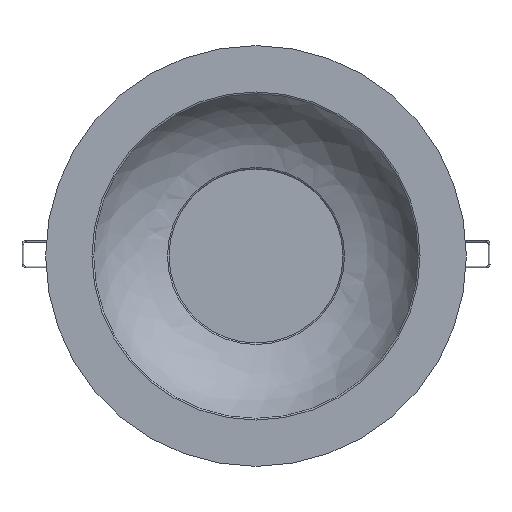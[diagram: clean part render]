
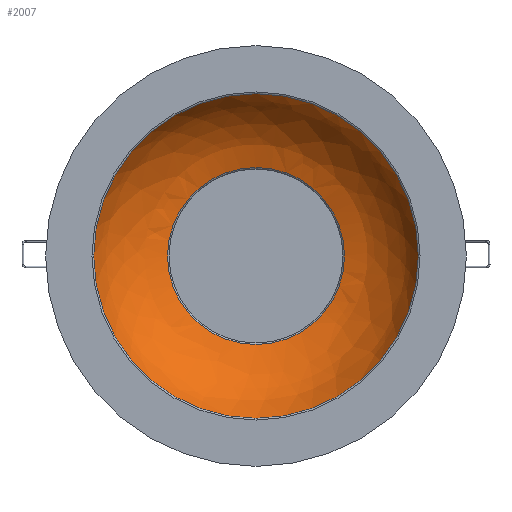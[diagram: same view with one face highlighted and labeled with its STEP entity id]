
A CAD part, front view. The second image highlights one B-rep face of the part: STEP entity #2007.
In plain terms, the highlighted free-form (B-spline) face has degree [2, 2] with [3, 9] control points.
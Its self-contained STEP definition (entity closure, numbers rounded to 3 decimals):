
#225=CIRCLE('',#2180,48.36);
#227=CIRCLE('',#2182,60.);
#228=CIRCLE('',#2183,88.739);
#242=(
BOUNDED_SURFACE()
B_SPLINE_SURFACE(2,2,((#9090,#9091,#9092,#9093,#9094,#9095,#9096,#9097,
#9098),(#9099,#9100,#9101,#9102,#9103,#9104,#9105,#9106,#9107),(#9108,#9109,
#9110,#9111,#9112,#9113,#9114,#9115,#9116)),.UNSPECIFIED.,.F.,.T.,.F.)
B_SPLINE_SURFACE_WITH_KNOTS((3,3),(3,2,2,2,3),(0.421,1.329),
(-3.142,-1.571,0.,1.571,3.142),
 .UNSPECIFIED.)
GEOMETRIC_REPRESENTATION_ITEM()
RATIONAL_B_SPLINE_SURFACE(((1.,0.707,1.,0.707,1.,
0.707,1.,0.707,1.),(0.899,0.636,
0.899,0.636,0.899,0.636,
0.899,0.636,0.899),(1.,0.707,
1.,0.707,1.,0.707,1.,0.707,1.)))
REPRESENTATION_ITEM('')
SURFACE()
);
#366=FACE_OUTER_BOUND('',#552,.T.);
#552=EDGE_LOOP('',(#1833,#1834,#1835,#1836));
#1000=VERTEX_POINT('',#9087);
#1001=VERTEX_POINT('',#9117);
#1277=EDGE_CURVE('',#1000,#1000,#225,.T.);
#1279=EDGE_CURVE('',#1000,#1001,#227,.T.);
#1280=EDGE_CURVE('',#1001,#1001,#228,.T.);
#1833=ORIENTED_EDGE('',*,*,#1277,.T.);
#1834=ORIENTED_EDGE('',*,*,#1279,.T.);
#1835=ORIENTED_EDGE('',*,*,#1280,.F.);
#1836=ORIENTED_EDGE('',*,*,#1279,.F.);
#2007=ADVANCED_FACE('',(#366),#242,.T.);
#2180=AXIS2_PLACEMENT_3D('',#9088,#2570,#2571);
#2182=AXIS2_PLACEMENT_3D('',#9118,#2574,#2575);
#2183=AXIS2_PLACEMENT_3D('',#9119,#2576,#2577);
#2570=DIRECTION('center_axis',(0.,1.,0.));
#2571=DIRECTION('ref_axis',(0.866,0.,-0.5));
#2574=DIRECTION('center_axis',(-0.866,0.,
0.5));
#2575=DIRECTION('ref_axis',(-0.5,0.,-0.866));
#2576=DIRECTION('center_axis',(0.,1.,0.));
#2577=DIRECTION('ref_axis',(0.866,0.,-0.5));
#9087=CARTESIAN_POINT('',(-24.18,-31.182,-41.881));
#9088=CARTESIAN_POINT('Origin',(0.,-31.182,
0.));
#9090=CARTESIAN_POINT('Ctrl Pts',(-44.37,-64.909,-76.85));
#9091=CARTESIAN_POINT('Ctrl Pts',(-121.22,-64.909,-32.481));
#9092=CARTESIAN_POINT('Ctrl Pts',(-76.85,-64.909,44.37));
#9093=CARTESIAN_POINT('Ctrl Pts',(-32.481,-64.909,121.22));
#9094=CARTESIAN_POINT('Ctrl Pts',(44.37,-64.909,76.85));
#9095=CARTESIAN_POINT('Ctrl Pts',(121.22,-64.909,32.481));
#9096=CARTESIAN_POINT('Ctrl Pts',(76.85,-64.909,-44.37));
#9097=CARTESIAN_POINT('Ctrl Pts',(32.481,-64.909,-121.22));
#9098=CARTESIAN_POINT('Ctrl Pts',(-44.37,-64.909,-76.85));
#9099=CARTESIAN_POINT('Ctrl Pts',(-38.388,-38.197,-66.49));
#9100=CARTESIAN_POINT('Ctrl Pts',(-104.877,-38.197,-28.102));
#9101=CARTESIAN_POINT('Ctrl Pts',(-66.49,-38.197,38.388));
#9102=CARTESIAN_POINT('Ctrl Pts',(-28.102,-38.197,104.877));
#9103=CARTESIAN_POINT('Ctrl Pts',(38.388,-38.197,66.49));
#9104=CARTESIAN_POINT('Ctrl Pts',(104.877,-38.197,28.102));
#9105=CARTESIAN_POINT('Ctrl Pts',(66.49,-38.197,-38.388));
#9106=CARTESIAN_POINT('Ctrl Pts',(28.102,-38.197,-104.877));
#9107=CARTESIAN_POINT('Ctrl Pts',(-38.388,-38.197,-66.49));
#9108=CARTESIAN_POINT('Ctrl Pts',(-24.18,-31.182,-41.881));
#9109=CARTESIAN_POINT('Ctrl Pts',(-66.061,-31.182,-17.701));
#9110=CARTESIAN_POINT('Ctrl Pts',(-41.881,-31.182,24.18));
#9111=CARTESIAN_POINT('Ctrl Pts',(-17.701,-31.182,66.061));
#9112=CARTESIAN_POINT('Ctrl Pts',(24.18,-31.182,41.881));
#9113=CARTESIAN_POINT('Ctrl Pts',(66.061,-31.182,17.701));
#9114=CARTESIAN_POINT('Ctrl Pts',(41.881,-31.182,-24.18));
#9115=CARTESIAN_POINT('Ctrl Pts',(17.701,-31.182,-66.061));
#9116=CARTESIAN_POINT('Ctrl Pts',(-24.18,-31.182,-41.881));
#9117=CARTESIAN_POINT('',(-44.37,-64.909,-76.85));
#9118=CARTESIAN_POINT('Origin',(-16.99,-89.434,-29.428));
#9119=CARTESIAN_POINT('Origin',(0.,-64.909,
0.));
